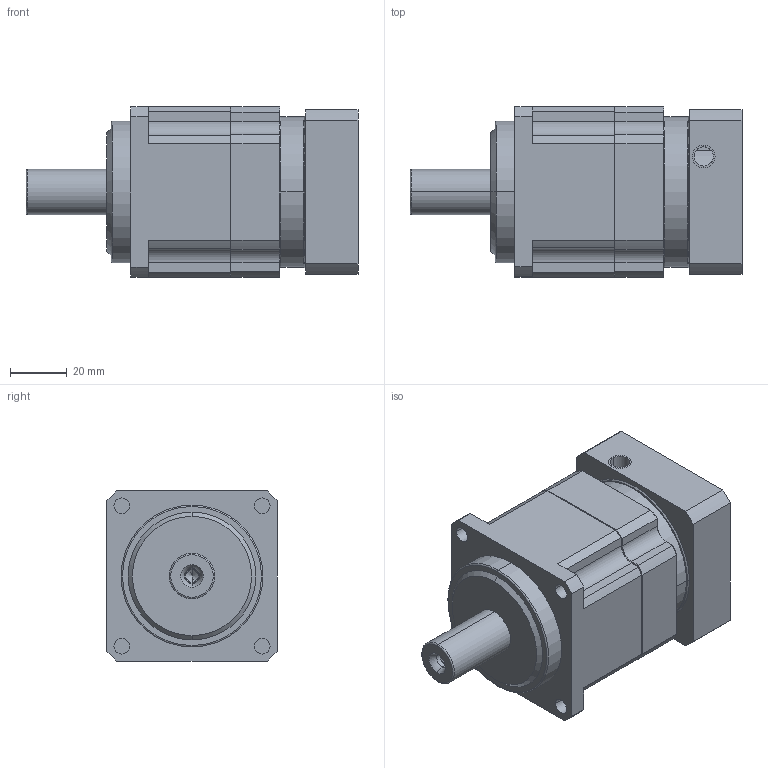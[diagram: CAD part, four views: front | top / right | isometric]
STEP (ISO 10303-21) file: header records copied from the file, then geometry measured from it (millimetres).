
FILE_DESCRIPTION((''),'2;1');
FILE_NAME('AB0601-P0403202201_ASM','2022-06-30T',('Administrator'),(''),'PRO/ENGINEER BY PARAMETRIC TECHNOLOGY CORPORATION, 2015240','PRO/ENGINEER BY PARAMETRIC TECHNOLOGY CORPORATION, 2015240','');
FILE_SCHEMA(('CONFIG_CONTROL_DESIGN'));
Length unit declared in the file: millimetre
Products named in the file (6): P1301200001_D; AB060; AB-INPUTSHAFT-2; AB0601_ASM; P0403202201-0002; AB0601-P0403202201_ASM
Assembly tree (5 placements, depth 3):
  AB0601-P0403202201_ASM
    AB0601_ASM
      P1301200001_D
      AB060
      AB-INPUTSHAFT-2
    P0403202201-0002
Bounding box: 117 x 60 x 60 mm (x, y, z)
Volume: 243366.7 mm3; surface area: 52181.5 mm2
Topology: 4 solids, 10 shells, 253 faces, 620 edges, 389 vertices
Faces by surface type: cylinder 125, plane 78, cone 30, torus 20
Entity records: 7840 total; most frequent: CARTESIAN_POINT 1515, DIRECTION 1415, ORIENTED_EDGE 1194, EDGE_CURVE 610, AXIS2_PLACEMENT_3D 571, VERTEX_POINT 389, EDGE_LOOP 307, CIRCLE 300
